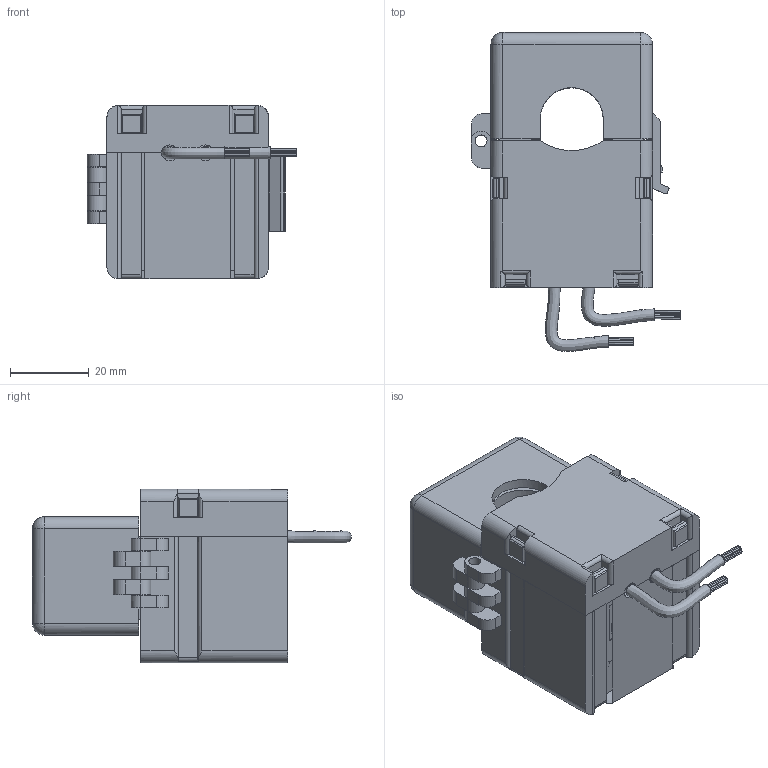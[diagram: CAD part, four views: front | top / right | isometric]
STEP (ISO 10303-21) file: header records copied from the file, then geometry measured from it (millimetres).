
FILE_DESCRIPTION(/* description */ (''),/* implementation_level */ '2;1');
FILE_NAME(/* name */ '2025-11-12-6.stp',/* time_stamp */ '2025-11-12T17:39:36+08:00',/* author */ (''),/* organization */ (''),/* preprocessor_version */ 'ST-DEVELOPER v16.7',/* originating_system */ 'SIEMENS PLM Software NX 12.0',/* authorisation */ '');
FILE_SCHEMA (('AUTOMOTIVE_DESIGN { 1 0 10303 214 3 1 1 1 }'));
Length unit declared in the file: millimetre
Products named in the file (1): Admi2338957Aldnu
Bounding box: 53.16 x 80.96 x 44 mm (x, y, z)
Volume: 45302.6 mm3; surface area: 47359.4 mm2
Topology: 33 solids, 33 shells, 789 faces, 2108 edges, 1380 vertices
Faces by surface type: plane 525, cylinder 253, sphere 6, bspline 3, torus 2
Full cylindrical faces by diameter (mm): 0.4 x18, 1.6 x2, 2 x2, 3.001 x5
Entity records: 26499 total; most frequent: CARTESIAN_POINT 6624, ORIENTED_EDGE 4212, DIRECTION 3913, EDGE_CURVE 2106, LINE 1419, VECTOR 1419, VERTEX_POINT 1380, AXIS2_PLACEMENT_3D 1247
